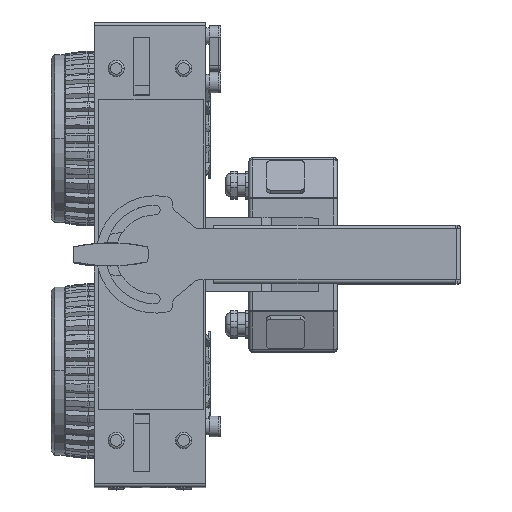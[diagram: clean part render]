
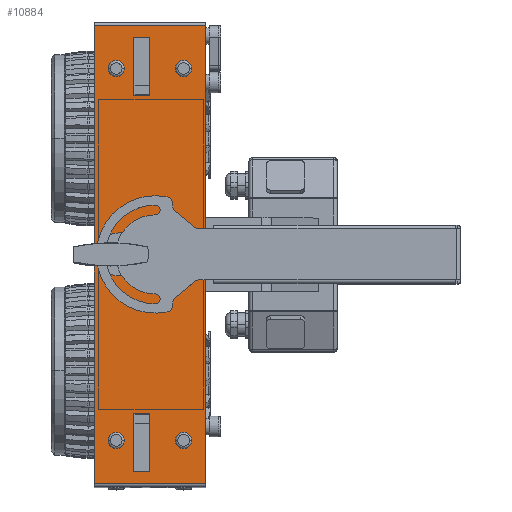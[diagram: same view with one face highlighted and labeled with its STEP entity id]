
A CAD part, top view. The second image highlights one B-rep face of the part: STEP entity #10884.
In plain terms, the highlighted planar face has unit normal (0, 0, 1).
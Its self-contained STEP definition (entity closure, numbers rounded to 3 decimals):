
#569=DIRECTION('',(0.,1.,0.));
#570=VECTOR('',#569,394.);
#571=CARTESIAN_POINT('',(96.,-197.,200.));
#572=LINE('',#571,#570);
#878=DIRECTION('',(0.,1.,0.));
#879=VECTOR('',#878,394.);
#880=CARTESIAN_POINT('',(0.,-197.,200.));
#881=LINE('',#880,#879);
#1378=CARTESIAN_POINT('',(36.,0.,200.));
#1379=DIRECTION('',(0.,0.,-1.));
#1380=DIRECTION('',(1.,0.,0.));
#1381=AXIS2_PLACEMENT_3D('',#1378,#1379,#1380);
#1392=CARTESIAN_POINT('',(36.,0.,200.));
#1393=DIRECTION('',(0.,0.,-1.));
#1394=DIRECTION('',(0.,1.,0.));
#1395=AXIS2_PLACEMENT_3D('',#1392,#1393,#1394);
#1397=DIRECTION('',(1.,0.,0.));
#1398=VECTOR('',#1397,14.);
#1399=CARTESIAN_POINT('',(33.5,137.,200.));
#1400=LINE('',#1399,#1398);
#1401=DIRECTION('',(0.,1.,0.));
#1402=VECTOR('',#1401,50.);
#1403=CARTESIAN_POINT('',(47.5,137.,200.));
#1404=LINE('',#1403,#1402);
#1405=DIRECTION('',(-1.,0.,0.));
#1406=VECTOR('',#1405,14.);
#1407=CARTESIAN_POINT('',(47.5,187.,200.));
#1408=LINE('',#1407,#1406);
#1409=DIRECTION('',(0.,-1.,0.));
#1410=VECTOR('',#1409,50.);
#1411=CARTESIAN_POINT('',(33.5,187.,200.));
#1412=LINE('',#1411,#1410);
#1413=DIRECTION('',(1.,0.,0.));
#1414=VECTOR('',#1413,14.);
#1415=CARTESIAN_POINT('',(33.5,-137.,200.));
#1416=LINE('',#1415,#1414);
#1417=DIRECTION('',(0.,1.,0.));
#1418=VECTOR('',#1417,50.);
#1419=CARTESIAN_POINT('',(33.5,-187.,200.));
#1420=LINE('',#1419,#1418);
#1421=DIRECTION('',(-1.,0.,0.));
#1422=VECTOR('',#1421,14.);
#1423=CARTESIAN_POINT('',(47.5,-187.,200.));
#1424=LINE('',#1423,#1422);
#1425=DIRECTION('',(0.,-1.,0.));
#1426=VECTOR('',#1425,50.);
#1427=CARTESIAN_POINT('',(47.5,-137.,200.));
#1428=LINE('',#1427,#1426);
#1429=CARTESIAN_POINT('',(19.,160.,200.));
#1430=DIRECTION('',(0.,0.,1.));
#1431=DIRECTION('',(1.,0.,0.));
#1432=AXIS2_PLACEMENT_3D('',#1429,#1430,#1431);
#1434=CARTESIAN_POINT('',(19.,160.,200.));
#1435=DIRECTION('',(0.,0.,1.));
#1436=DIRECTION('',(-1.,0.,0.));
#1437=AXIS2_PLACEMENT_3D('',#1434,#1435,#1436);
#1439=CARTESIAN_POINT('',(77.,160.,200.));
#1440=DIRECTION('',(0.,0.,1.));
#1441=DIRECTION('',(1.,0.,0.));
#1442=AXIS2_PLACEMENT_3D('',#1439,#1440,#1441);
#1444=CARTESIAN_POINT('',(77.,160.,200.));
#1445=DIRECTION('',(0.,0.,1.));
#1446=DIRECTION('',(-1.,0.,0.));
#1447=AXIS2_PLACEMENT_3D('',#1444,#1445,#1446);
#1449=CARTESIAN_POINT('',(19.,-160.,200.));
#1450=DIRECTION('',(0.,0.,1.));
#1451=DIRECTION('',(1.,0.,0.));
#1452=AXIS2_PLACEMENT_3D('',#1449,#1450,#1451);
#1454=CARTESIAN_POINT('',(19.,-160.,200.));
#1455=DIRECTION('',(0.,0.,1.));
#1456=DIRECTION('',(-1.,0.,0.));
#1457=AXIS2_PLACEMENT_3D('',#1454,#1455,#1456);
#1459=CARTESIAN_POINT('',(77.,-160.,200.));
#1460=DIRECTION('',(0.,0.,1.));
#1461=DIRECTION('',(1.,0.,0.));
#1462=AXIS2_PLACEMENT_3D('',#1459,#1460,#1461);
#1464=CARTESIAN_POINT('',(77.,-160.,200.));
#1465=DIRECTION('',(0.,0.,1.));
#1466=DIRECTION('',(-1.,0.,0.));
#1467=AXIS2_PLACEMENT_3D('',#1464,#1465,#1466);
#1469=DIRECTION('',(1.,0.,0.));
#1470=VECTOR('',#1469,96.);
#1471=CARTESIAN_POINT('',(0.,-197.,200.));
#1472=LINE('',#1471,#1470);
#1473=DIRECTION('',(1.,0.,0.));
#1474=VECTOR('',#1473,96.);
#1475=CARTESIAN_POINT('',(0.,197.,200.));
#1476=LINE('',#1475,#1474);
#1481=CARTESIAN_POINT('',(69.,0.,200.));
#1482=DIRECTION('',(0.,0.,-1.));
#1483=DIRECTION('',(1.,0.,0.));
#1484=AXIS2_PLACEMENT_3D('',#1481,#1482,#1483);
#1495=CARTESIAN_POINT('',(69.,0.,200.));
#1496=DIRECTION('',(0.,0.,-1.));
#1497=DIRECTION('',(0.,1.,0.));
#1498=AXIS2_PLACEMENT_3D('',#1495,#1496,#1497);
#7361=CARTESIAN_POINT('',(33.5,137.,200.));
#7362=CARTESIAN_POINT('',(47.5,137.,200.));
#7363=VERTEX_POINT('',#7361);
#7364=VERTEX_POINT('',#7362);
#7365=CARTESIAN_POINT('',(47.5,187.,200.));
#7366=VERTEX_POINT('',#7365);
#7367=CARTESIAN_POINT('',(33.5,187.,200.));
#7368=VERTEX_POINT('',#7367);
#7479=CARTESIAN_POINT('',(33.5,-137.,200.));
#7480=VERTEX_POINT('',#7479);
#7481=CARTESIAN_POINT('',(47.5,-137.,200.));
#7482=VERTEX_POINT('',#7481);
#7483=CARTESIAN_POINT('',(47.5,-187.,200.));
#7484=VERTEX_POINT('',#7483);
#7485=CARTESIAN_POINT('',(33.5,-187.,200.));
#7486=VERTEX_POINT('',#7485);
#7673=CARTESIAN_POINT('',(26.,160.,200.));
#7674=CARTESIAN_POINT('',(12.,160.,200.));
#7675=VERTEX_POINT('',#7673);
#7676=VERTEX_POINT('',#7674);
#7681=CARTESIAN_POINT('',(84.,160.,200.));
#7682=CARTESIAN_POINT('',(70.,160.,200.));
#7683=VERTEX_POINT('',#7681);
#7684=VERTEX_POINT('',#7682);
#7689=CARTESIAN_POINT('',(26.,-160.,200.));
#7690=CARTESIAN_POINT('',(12.,-160.,200.));
#7691=VERTEX_POINT('',#7689);
#7692=VERTEX_POINT('',#7690);
#7697=CARTESIAN_POINT('',(84.,-160.,200.));
#7698=CARTESIAN_POINT('',(70.,-160.,200.));
#7699=VERTEX_POINT('',#7697);
#7700=VERTEX_POINT('',#7698);
#7889=CARTESIAN_POINT('',(36.,5.,200.));
#7890=CARTESIAN_POINT('',(41.,0.,200.));
#7891=VERTEX_POINT('',#7889);
#7892=VERTEX_POINT('',#7890);
#7897=CARTESIAN_POINT('',(69.,5.,200.));
#7898=CARTESIAN_POINT('',(74.,0.,200.));
#7899=VERTEX_POINT('',#7897);
#7900=VERTEX_POINT('',#7898);
#8933=CARTESIAN_POINT('',(96.,-197.,200.));
#8935=VERTEX_POINT('',#8933);
#8939=CARTESIAN_POINT('',(0.,-197.,200.));
#8940=VERTEX_POINT('',#8939);
#8942=CARTESIAN_POINT('',(96.,197.,200.));
#8944=VERTEX_POINT('',#8942);
#8945=CARTESIAN_POINT('',(0.,197.,200.));
#8946=VERTEX_POINT('',#8945);
#10817=CARTESIAN_POINT('',(0.,-200.,200.));
#10818=DIRECTION('',(0.,0.,1.));
#10819=DIRECTION('',(0.,1.,0.));
#10820=AXIS2_PLACEMENT_3D('',#10817,#10818,#10819);
#10821=PLANE('',#10820);
#10823=ORIENTED_EDGE('',*,*,#10822,.F.);
#10824=ORIENTED_EDGE('',*,*,#10043,.T.);
#10826=ORIENTED_EDGE('',*,*,#10825,.T.);
#10827=ORIENTED_EDGE('',*,*,#9708,.F.);
#10828=EDGE_LOOP('',(#10823,#10824,#10826,#10827));
#10829=FACE_OUTER_BOUND('',#10828,.F.);
#10831=ORIENTED_EDGE('',*,*,#10830,.F.);
#10833=ORIENTED_EDGE('',*,*,#10832,.F.);
#10834=EDGE_LOOP('',(#10831,#10833));
#10835=FACE_BOUND('',#10834,.F.);
#10837=ORIENTED_EDGE('',*,*,#10836,.T.);
#10839=ORIENTED_EDGE('',*,*,#10838,.T.);
#10841=ORIENTED_EDGE('',*,*,#10840,.T.);
#10843=ORIENTED_EDGE('',*,*,#10842,.T.);
#10844=EDGE_LOOP('',(#10837,#10839,#10841,#10843));
#10845=FACE_BOUND('',#10844,.F.);
#10847=ORIENTED_EDGE('',*,*,#10846,.F.);
#10849=ORIENTED_EDGE('',*,*,#10848,.F.);
#10851=ORIENTED_EDGE('',*,*,#10850,.F.);
#10853=ORIENTED_EDGE('',*,*,#10852,.F.);
#10854=EDGE_LOOP('',(#10847,#10849,#10851,#10853));
#10855=FACE_BOUND('',#10854,.F.);
#10857=ORIENTED_EDGE('',*,*,#10856,.T.);
#10859=ORIENTED_EDGE('',*,*,#10858,.T.);
#10860=EDGE_LOOP('',(#10857,#10859));
#10861=FACE_BOUND('',#10860,.F.);
#10863=ORIENTED_EDGE('',*,*,#10862,.T.);
#10865=ORIENTED_EDGE('',*,*,#10864,.T.);
#10866=EDGE_LOOP('',(#10863,#10865));
#10867=FACE_BOUND('',#10866,.F.);
#10869=ORIENTED_EDGE('',*,*,#10868,.T.);
#10871=ORIENTED_EDGE('',*,*,#10870,.T.);
#10872=EDGE_LOOP('',(#10869,#10871));
#10873=FACE_BOUND('',#10872,.F.);
#10875=ORIENTED_EDGE('',*,*,#10874,.T.);
#10877=ORIENTED_EDGE('',*,*,#10876,.T.);
#10878=EDGE_LOOP('',(#10875,#10877));
#10879=FACE_BOUND('',#10878,.F.);
#10880=ORIENTED_EDGE('',*,*,#10796,.F.);
#10881=ORIENTED_EDGE('',*,*,#10810,.F.);
#10882=EDGE_LOOP('',(#10880,#10881));
#10883=FACE_BOUND('',#10882,.F.);
#1382=CIRCLE('',#1381,5.);
#1396=CIRCLE('',#1395,5.);
#1433=CIRCLE('',#1432,7.);
#1438=CIRCLE('',#1437,7.);
#1443=CIRCLE('',#1442,7.);
#1448=CIRCLE('',#1447,7.);
#1453=CIRCLE('',#1452,7.);
#1458=CIRCLE('',#1457,7.);
#1463=CIRCLE('',#1462,7.);
#1468=CIRCLE('',#1467,7.);
#1485=CIRCLE('',#1484,5.);
#1499=CIRCLE('',#1498,5.);
#9708=EDGE_CURVE('',#8935,#8944,#572,.T.);
#10043=EDGE_CURVE('',#8940,#8946,#881,.T.);
#10796=EDGE_CURVE('',#7892,#7891,#1382,.T.);
#10810=EDGE_CURVE('',#7891,#7892,#1396,.T.);
#10822=EDGE_CURVE('',#8940,#8935,#1472,.T.);
#10825=EDGE_CURVE('',#8946,#8944,#1476,.T.);
#10830=EDGE_CURVE('',#7900,#7899,#1485,.T.);
#10832=EDGE_CURVE('',#7899,#7900,#1499,.T.);
#10836=EDGE_CURVE('',#7363,#7364,#1400,.T.);
#10838=EDGE_CURVE('',#7364,#7366,#1404,.T.);
#10840=EDGE_CURVE('',#7366,#7368,#1408,.T.);
#10842=EDGE_CURVE('',#7368,#7363,#1412,.T.);
#10846=EDGE_CURVE('',#7480,#7482,#1416,.T.);
#10848=EDGE_CURVE('',#7486,#7480,#1420,.T.);
#10850=EDGE_CURVE('',#7484,#7486,#1424,.T.);
#10852=EDGE_CURVE('',#7482,#7484,#1428,.T.);
#10856=EDGE_CURVE('',#7675,#7676,#1433,.T.);
#10858=EDGE_CURVE('',#7676,#7675,#1438,.T.);
#10862=EDGE_CURVE('',#7683,#7684,#1443,.T.);
#10864=EDGE_CURVE('',#7684,#7683,#1448,.T.);
#10868=EDGE_CURVE('',#7691,#7692,#1453,.T.);
#10870=EDGE_CURVE('',#7692,#7691,#1458,.T.);
#10874=EDGE_CURVE('',#7699,#7700,#1463,.T.);
#10876=EDGE_CURVE('',#7700,#7699,#1468,.T.);
#10884=ADVANCED_FACE('',(#10829,#10835,#10845,#10855,#10861,#10867,#10873,
#10879,#10883),#10821,.T.);
